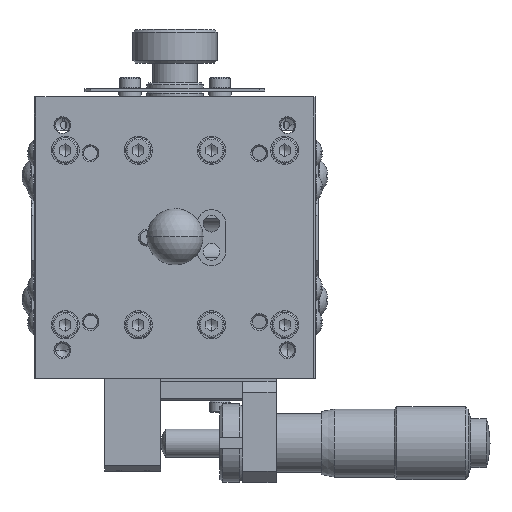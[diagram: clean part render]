
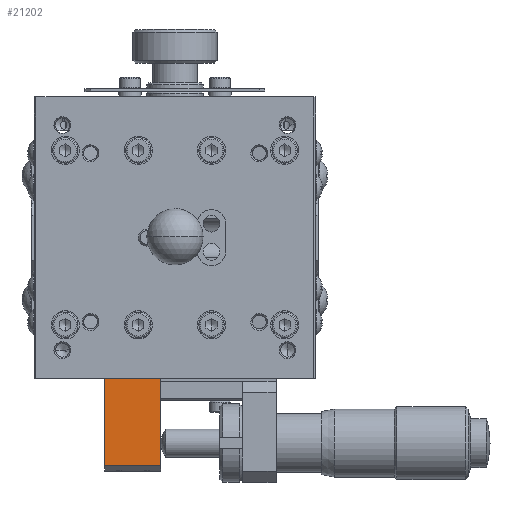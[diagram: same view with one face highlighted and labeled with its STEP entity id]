
A CAD part, top view. The second image highlights one B-rep face of the part: STEP entity #21202.
In plain terms, the highlighted planar face has unit normal (0, 0, 1).
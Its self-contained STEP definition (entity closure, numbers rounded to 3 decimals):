
#433 = DIRECTION ( 'NONE',  ( 0., -1., 0. ) ) ;
#434 = VECTOR ( 'NONE', #433, 1000. ) ;
#435 = CARTESIAN_POINT ( 'NONE',  ( -2.5, -25., -0.5 ) ) ;
#436 = LINE ( 'NONE', #435, #434 ) ;
#464 = DIRECTION ( 'NONE',  ( 0., 0., 1. ) ) ;
#465 = CARTESIAN_POINT ( 'NONE',  ( -12.5, -25., -0.5 ) ) ;
#466 = AXIS2_PLACEMENT_3D ( 'NONE', #465, #464, #532 ) ;
#467 = PLANE ( 'NONE',  #466 ) ;
#468 = FACE_OUTER_BOUND ( 'NONE', #21203, .T. ) ;
#489 = DIRECTION ( 'NONE',  ( 1., 0., 0. ) ) ;
#490 = VECTOR ( 'NONE', #489, 1000. ) ;
#491 = CARTESIAN_POINT ( 'NONE',  ( -12.5, -40.5, -0.5 ) ) ;
#492 = LINE ( 'NONE', #491, #490 ) ;
#493 = CARTESIAN_POINT ( 'NONE',  ( -12.5, -40.5, -0.5 ) ) ;
#494 = DIRECTION ( 'NONE',  ( 0., -1., 0. ) ) ;
#495 = VECTOR ( 'NONE', #494, 1000. ) ;
#496 = CARTESIAN_POINT ( 'NONE',  ( -12.5, -25., -0.5 ) ) ;
#497 = LINE ( 'NONE', #496, #495 ) ;
#531 = CARTESIAN_POINT ( 'NONE',  ( -2.5, -40.5, -0.5 ) ) ;
#532 = DIRECTION ( 'NONE',  ( -1., 0., 0. ) ) ;
#21179 = ORIENTED_EDGE ( 'NONE', *, *, #21180, .F. ) ;
#21180 = EDGE_CURVE ( 'NONE', #43191, #21204, #436, .T. ) ;
#21181 = ORIENTED_EDGE ( 'NONE', *, *, #43190, .F. ) ;
#21182 = ORIENTED_EDGE ( 'NONE', *, *, #21183, .T. ) ;
#21183 = EDGE_CURVE ( 'NONE', #43188, #21184, #497, .T. ) ;
#21184 = VERTEX_POINT ( 'NONE', #493 ) ;
#21185 = ORIENTED_EDGE ( 'NONE', *, *, #21186, .T. ) ;
#21186 = EDGE_CURVE ( 'NONE', #21184, #21204, #492, .T. ) ;
#21202 = ADVANCED_FACE ( 'NONE', ( #468 ), #467, .T. ) ;
#21203 = EDGE_LOOP ( 'NONE', ( #21179, #21181, #21182, #21185 ) ) ;
#21204 = VERTEX_POINT ( 'NONE', #531 ) ;
#32638 = CARTESIAN_POINT ( 'NONE',  ( -2.5, -25., -0.5 ) ) ;
#32639 = DIRECTION ( 'NONE',  ( 1., 0., 0. ) ) ;
#32640 = VECTOR ( 'NONE', #32639, 1000. ) ;
#32641 = CARTESIAN_POINT ( 'NONE',  ( -12.5, -25., -0.5 ) ) ;
#32642 = LINE ( 'NONE', #32641, #32640 ) ;
#32643 = CARTESIAN_POINT ( 'NONE',  ( -12.5, -25., -0.5 ) ) ;
#43188 = VERTEX_POINT ( 'NONE', #32643 ) ;
#43190 = EDGE_CURVE ( 'NONE', #43188, #43191, #32642, .T. ) ;
#43191 = VERTEX_POINT ( 'NONE', #32638 ) ;
